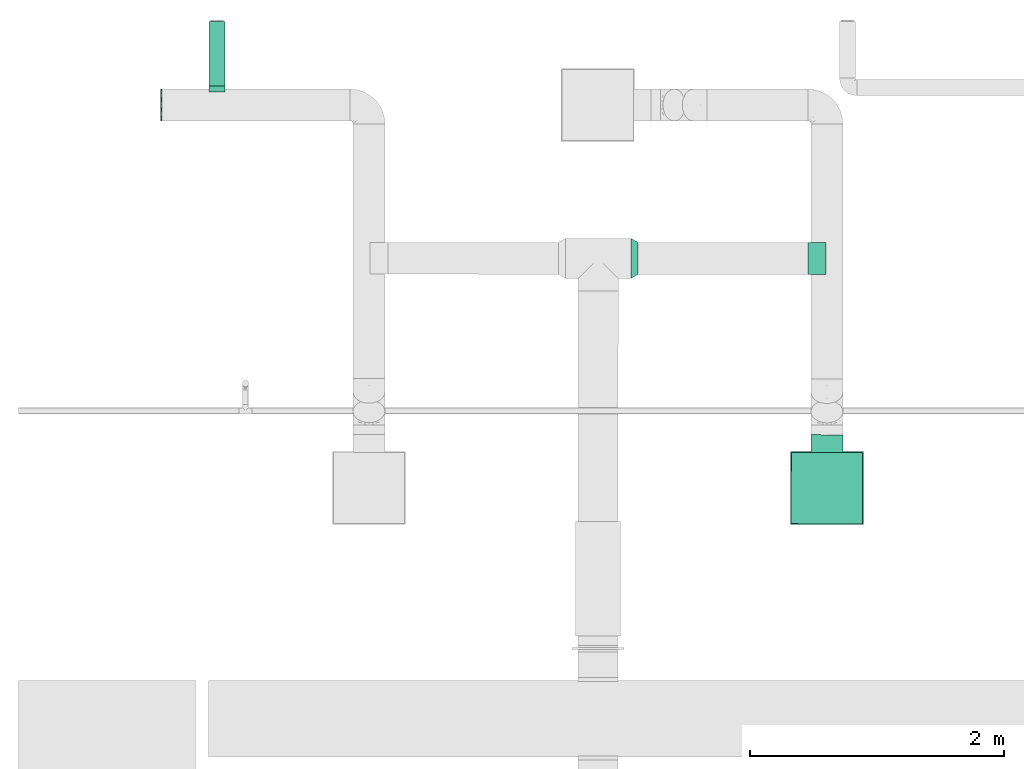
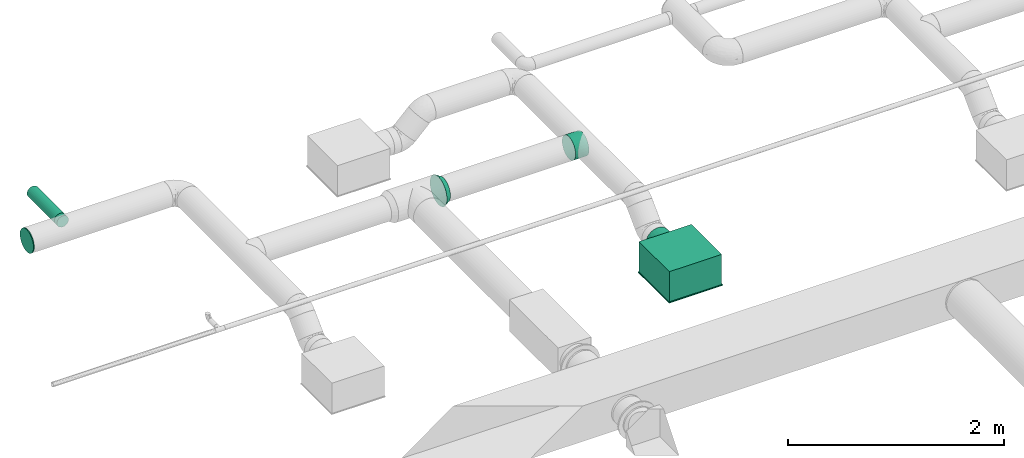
# One storey, part 36 of 63: 4 flow fittings, 1 flow segment, 1 flow terminal.
"""IFC2X3 building model written with IfcOpenShell, lengths in millimetres."""

from ifc_helpers import new_model, entity, si_unit, converted_unit, derived_unit, direction, frame, origin_with_axes, origin_2d_with_axis, place, context, subcontext, project, spatial, hollow_circle, extrude, open_shell, surface_model, source, transform, mapped, type_object, element, save


model = new_model("IFC2X3")

# Units and contexts
model_context = context("Model", 3, precision=0.01, world=frame((0.0, 4.29681676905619e-09, 0.0)), true_north=direction((4.01073788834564e-13, 1.0)))
plan_context = context("Plan", 3, precision=0.01, world=frame((0.0, 4.29681676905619e-09, 0.0)), true_north=direction((4.01073788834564e-13, 1.0)))
body_context = subcontext(model_context, "Body", "Model", "MODEL_VIEW")
ifc_project = project(units=[converted_unit("PLANEANGLEUNIT", "DEGREE", entity("IfcPositiveLengthMeasure", 0.0174532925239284), si_unit("PLANEANGLEUNIT", "RADIAN"), dimensions=[0, 0, 0, 0, 0, 0, 0]), si_unit("AREAUNIT", "SQUARE_METRE"), si_unit("LENGTHUNIT", "METRE", prefix="MILLI"), si_unit("MASSUNIT", "GRAM", prefix="KILO"), si_unit("POWERUNIT", "WATT"), si_unit("PRESSUREUNIT", "PASCAL"), si_unit("FORCEUNIT", "NEWTON", prefix="KILO"), si_unit("ELECTRICVOLTAGEUNIT", "VOLT"), si_unit("ELECTRICCURRENTUNIT", "AMPERE"), si_unit("THERMODYNAMICTEMPERATUREUNIT", "DEGREE_CELSIUS"), si_unit("TIMEUNIT", "SECOND"), si_unit("VOLUMEUNIT", "CUBIC_METRE"), derived_unit("LINEARVELOCITYUNIT", [(si_unit("LENGTHUNIT", "METRE"), 1), (si_unit("TIMEUNIT", "SECOND"), -1)]), derived_unit("VOLUMETRICFLOWRATEUNIT", [(si_unit("VOLUMEUNIT", "CUBIC_METRE"), 1), (si_unit("TIMEUNIT", "SECOND"), -1)]), derived_unit("THERMALTRANSMITTANCEUNIT", [(si_unit("POWERUNIT", "WATT"), 1), (si_unit("THERMODYNAMICTEMPERATUREUNIT", "KELVIN"), -1), (si_unit("AREAUNIT", "SQUARE_METRE"), -1)]), derived_unit("SOUNDPRESSUREUNIT", [(si_unit("PRESSUREUNIT", "PASCAL"), 1)])], contexts=[model_context, plan_context])

# Site, building, storey
site_placement = place(None, frame((0.0, -4.29681676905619e-09, 0.0), z_axis=(0.0, 0.0, 1.0), x_axis=(1.0, 0.0, 0.0)))
site = spatial("IfcSite", under=ifc_project, at=site_placement, CompositionType="ELEMENT")
building_placement = place(site_placement, frame((0.0, 4.29681676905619e-09, 0.0), z_axis=(0.0, 0.0, 1.0), x_axis=(1.0, 0.0, 0.0)))
building = spatial("IfcBuilding", under=site, at=building_placement, Name="mc-building", CompositionType="ELEMENT")
storey_placement = place(building_placement, frame((0.0, 0.0, 210900.0), z_axis=(0.0, 0.0, 1.0), x_axis=(1.0, 0.0, 0.0)))
storey = spatial("IfcBuildingStorey", under=building, at=storey_placement, Name="Nivå F", CompositionType="ELEMENT", Elevation=210900.0)

# Flow fittings
duct_fitting_type_1 = type_object("IfcDuctFittingType", Name="magicirc_reduction_001", PredefinedType="TRANSITION")
shared_shape_1 = source(origin_with_axes(), body_context, "Body", "SurfaceModel", [
    surface_model("IfcShellBasedSurfaceModel", [(0.0, 78.75, 136.39901), (0.0, 157.5, 0.0), (0.0, 40.764, 152.13332), (0.0, -78.75, 136.39901), (0.0, -152.13332, -40.764), (0.0, -111.36932, 111.36932), (0.0, -136.39901, 78.75), (0.0, -152.13332, 40.764), (0.0, -157.5, 0.0), (0.0, 152.13332, -40.764), (0.0, 136.39901, -78.75), (0.0, 0.0, -157.5), (0.0, 111.36932, -111.36932), (0.0, 78.75, -136.39901), (0.0, 40.764, -152.13332), (0.0, -136.39901, -78.75), (0.0, -78.75, -136.39901), (0.0, -111.36932, -111.36932), (0.0, -40.764, -152.13332), (0.0, 0.0, 157.5), (56.29165, 38.62713, 118.88206), (56.29165, -38.62713, 118.88206), (56.29165, -73.47315, 101.12712), (56.29165, -101.12712, 73.47315), (56.29165, -118.88206, 38.62713), (56.29165, -125.0, 0.0), (56.29165, 0.0, 125.0), (56.29165, 118.88206, -38.62713), (56.29165, 73.47315, 101.12712), (56.29165, 101.12712, 73.47315), (56.29165, 118.88206, 38.62713), (56.29165, -118.88206, -38.62713), (56.29165, -101.12712, -73.47315), (56.29165, 0.0, -125.0), (56.29165, -73.47315, -101.12712), (56.29165, -38.62713, -118.88206), (56.29165, 125.0, 0.0), (56.29165, 73.47315, -101.12712), (56.29165, 101.12712, -73.47315), (56.29165, 38.62713, -118.88206), (0.0, 136.39901, 78.75), (0.0, 111.36932, 111.36932), (0.0, -40.764, 152.13332), (0.0, 152.13332, 40.764)], [open_shell([[[0, 1, 2]], [[3, 4, 5]], [[6, 5, 4]], [[6, 4, 7]], [[7, 4, 8]], [[1, 9, 10]], [[11, 12, 13]], [[14, 11, 13]], [[15, 16, 17]], [[16, 11, 18]], [[1, 4, 19]], [[20, 21, 22]], [[23, 24, 25]], [[23, 25, 22]], [[20, 22, 25]], [[26, 21, 20]], [[20, 27, 28]], [[28, 27, 29]], [[27, 30, 29]], [[25, 27, 20]], [[31, 32, 33]], [[34, 35, 33]], [[34, 33, 32]], [[33, 27, 25]], [[30, 27, 36]], [[33, 37, 38]], [[38, 27, 33]], [[37, 33, 39]], [[25, 31, 33]], [[1, 19, 2]], [[40, 1, 41]], [[41, 1, 0]], [[5, 19, 4]], [[19, 5, 3]], [[3, 42, 19]], [[5, 4, 6]], [[8, 7, 4]], [[1, 40, 43]], [[1, 10, 14]], [[13, 14, 10]], [[13, 10, 12]], [[1, 14, 4]], [[14, 17, 15]], [[15, 4, 14]], [[14, 16, 17]], [[18, 16, 14]], [[11, 18, 14]], [[35, 34, 16]], [[33, 35, 18]], [[18, 11, 33]], [[16, 18, 35]], [[34, 17, 16]], [[31, 25, 4]], [[32, 31, 15]], [[15, 17, 32]], [[4, 15, 31]], [[25, 8, 4]], [[32, 17, 34]], [[27, 38, 10]], [[36, 27, 9]], [[9, 1, 36]], [[10, 9, 27]], [[38, 12, 10]], [[39, 33, 14]], [[37, 39, 13]], [[13, 12, 37]], [[14, 13, 39]], [[33, 11, 14]], [[37, 12, 38]], [[20, 28, 0]], [[26, 20, 2]], [[2, 19, 26]], [[0, 2, 20]], [[28, 41, 0]], [[30, 36, 43]], [[29, 30, 40]], [[40, 41, 29]], [[43, 40, 30]], [[36, 1, 43]], [[29, 41, 28]], [[24, 23, 6]], [[25, 24, 7]], [[7, 8, 25]], [[6, 7, 24]], [[23, 5, 6]], [[21, 26, 42]], [[22, 21, 3]], [[3, 5, 22]], [[42, 3, 21]], [[26, 19, 42]], [[22, 5, 23]], [[42, 19, 2]], [[0, 42, 2]], [[0, 41, 1]], [[0, 1, 42]], [[42, 4, 3]], [[11, 1, 9]], [[10, 11, 9]], [[12, 11, 10]], [[11, 15, 4]], [[11, 16, 15]], [[4, 1, 11]], [[1, 4, 42]], [[21, 22, 25]], [[21, 25, 26]], [[20, 26, 28]], [[26, 29, 28]], [[30, 29, 27]], [[27, 29, 26]], [[26, 25, 35]], [[31, 32, 34]], [[35, 27, 26]], [[35, 31, 34]], [[39, 35, 33]], [[35, 38, 27]], [[35, 37, 38]], [[39, 37, 35]], [[25, 31, 35]], [[25, 7, 8]], [[7, 24, 6]], [[19, 42, 26]], [[3, 21, 42]], [[26, 2, 19]], [[2, 20, 0]], [[1, 43, 36]], [[40, 30, 43]], [[36, 9, 1]], [[9, 27, 10]], [[11, 14, 33]], [[13, 39, 14]], [[33, 18, 11]], [[18, 35, 16]], [[8, 4, 25]], [[15, 31, 4]], [[26, 21, 22]], [[26, 23, 20]], [[23, 26, 22]], [[23, 27, 29]], [[28, 20, 29]], [[29, 36, 30]], [[29, 20, 23]], [[29, 27, 36]], [[23, 31, 27]], [[32, 34, 35]], [[27, 31, 32]], [[33, 32, 35]], [[38, 27, 37]], [[33, 37, 27]], [[27, 32, 33]], [[31, 23, 25]], [[41, 19, 2]], [[41, 2, 0]], [[19, 40, 4]], [[40, 19, 41]], [[7, 19, 4]], [[42, 5, 3]], [[42, 19, 5]], [[5, 7, 6]], [[19, 7, 5]], [[43, 10, 40]], [[9, 10, 43]], [[40, 10, 4]], [[4, 10, 13]], [[18, 13, 14]], [[4, 17, 15]], [[17, 4, 16]], [[13, 18, 16]], [[16, 4, 13]], [[43, 1, 9]], [[13, 37, 39]], [[38, 37, 12]], [[33, 14, 39]], [[27, 10, 9]], [[37, 13, 12]], [[11, 33, 18]], [[18, 33, 35]], [[34, 16, 35]], [[15, 32, 31]], [[17, 34, 32]], [[4, 31, 25]], [[17, 32, 15]], [[31, 4, 15]], [[3, 22, 21]], [[23, 22, 5]], [[26, 42, 21]], [[24, 6, 7]], [[22, 3, 5]], [[19, 26, 2]], [[2, 26, 20]], [[28, 0, 20]], [[40, 29, 30]], [[41, 28, 29]], [[43, 30, 36]], [[41, 29, 40]], [[30, 43, 40]]])]),
])
flow_fitting_1_placement = place(storey_placement, frame((525362.20494, 459788.88693, 4200.0), z_axis=(0.0, 0.0, 1.0), x_axis=(0.999999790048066, -0.000647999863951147, 0.0)))
element("IfcFlowFitting", 1, at=flow_fitting_1_placement, inside=storey, type_object=duct_fitting_type_1, Name="magicirc_reduction_001", context=body_context, shape_type="MappedRepresentation", body=[
    mapped(shared_shape_1, transform((0.0, 0.0, 0.0), scale=1.0)),
])
duct_fitting_type_2 = type_object("IfcDuctFittingType", Name="magicirc_tapoutlet_001", PredefinedType="CONNECTOR")
shared_shape_2 = source(origin_with_axes(), body_context, "Body", "SurfaceModel", [
    surface_model("IfcShellBasedSurfaceModel", [(-118.904, 0.0, -125.0), (-118.904, -32.35238, -120.74073), (-118.904, 32.35238, -120.74073), (-118.904, 120.74073, 32.35238), (-118.904, 62.5, -108.25318), (-118.904, 88.38835, -88.38835), (-118.904, 108.25318, -62.5), (-118.904, -125.0, 0.0), (-118.904, -120.74073, 32.35238), (-118.904, -88.38835, -88.38835), (-118.904, -62.5, -108.25318), (-118.904, -120.74073, -32.35238), (-118.904, -108.25318, -62.5), (-118.904, 120.74073, -32.35238), (-118.904, 108.25318, 62.5), (-118.904, 62.5, 108.25318), (-118.904, 32.35238, 120.74073), (-118.904, 88.38835, 88.38835), (-118.904, 0.0, 125.0), (-118.904, -108.25318, 62.5), (-118.904, -88.38835, 88.38835), (-118.904, -32.35238, 120.74073), (-118.904, -62.5, 108.25318), (-118.904, 125.0, 0.0), (0.0, 0.0, 125.0), (0.0, 32.35238, 120.74073), (0.0, 62.5, 108.25318), (0.0, 88.38835, 88.38835), (0.0, 108.25318, 62.5), (0.0, 120.74073, 32.35238), (0.0, 125.0, 0.0), (0.0, 120.74073, -32.35238), (0.0, 108.25318, -62.5), (0.0, 88.38835, -88.38835), (0.0, 62.5, -108.25318), (0.0, 32.35238, -120.74073), (0.0, 0.0, -125.0), (0.0, -32.35238, -120.74073), (0.0, -62.5, -108.25318), (0.0, -88.38835, -88.38835), (0.0, -108.25318, -62.5), (0.0, -120.74073, -32.35238), (0.0, -125.0, 0.0), (0.0, -120.74073, 32.35238), (0.0, -108.25318, 62.5), (0.0, -88.38835, 88.38835), (0.0, -62.5, 108.25318), (0.0, -32.35238, 120.74073), (25.0, 62.5, -108.25318), (25.0, 125.0, 0.0), (25.0, 32.35238, -120.74073), (25.0, -88.38835, -88.38835), (25.0, 0.0, -125.0), (25.0, -120.74073, 32.35238), (25.0, -62.5, -108.25318), (25.0, -32.35238, -120.74073), (25.0, -108.25318, -62.5), (25.0, -120.74073, -32.35238), (25.0, -125.0, 0.0), (25.0, 108.25318, -62.5), (25.0, 120.74073, -32.35238), (25.0, 120.74073, 32.35238), (25.0, 108.25318, 62.5), (25.0, 88.38835, 88.38835), (25.0, 32.35238, 120.74073), (25.0, 62.5, 108.25318), (25.0, -62.5, 108.25318), (25.0, -88.38835, 88.38835), (25.0, -108.25318, 62.5), (25.0, 0.0, 125.0), (25.0, -32.35238, 120.74073), (25.0, 88.38835, -88.38835)], [open_shell([[[0, 1, 2]], [[2, 3, 4]], [[5, 3, 6]], [[4, 3, 5]], [[2, 7, 8]], [[9, 7, 10]], [[2, 1, 10]], [[11, 7, 12]], [[9, 12, 7]], [[10, 7, 2]], [[13, 6, 3]], [[14, 3, 2]], [[15, 14, 2]], [[15, 2, 16]], [[17, 14, 15]], [[18, 16, 2]], [[8, 19, 2]], [[19, 20, 2]], [[21, 18, 22]], [[20, 22, 18]], [[2, 20, 18]], [[23, 13, 3]], [[16, 24, 25]], [[15, 25, 26]], [[18, 24, 16]], [[16, 25, 15]], [[26, 17, 15]], [[26, 27, 17]], [[3, 28, 29]], [[23, 29, 30]], [[27, 14, 17]], [[27, 28, 14]], [[14, 28, 3]], [[29, 23, 3]], [[31, 32, 6]], [[30, 31, 23]], [[23, 31, 13]], [[5, 6, 32]], [[31, 6, 13]], [[32, 33, 5]], [[2, 34, 35]], [[0, 35, 36]], [[33, 4, 5]], [[33, 34, 4]], [[4, 34, 2]], [[35, 0, 2]], [[1, 36, 37]], [[10, 37, 38]], [[0, 36, 1]], [[1, 37, 10]], [[38, 9, 10]], [[38, 39, 9]], [[11, 40, 41]], [[7, 41, 42]], [[39, 12, 9]], [[39, 40, 12]], [[12, 40, 11]], [[41, 7, 11]], [[8, 42, 43]], [[19, 43, 44]], [[7, 42, 8]], [[8, 43, 19]], [[44, 20, 19]], [[44, 45, 20]], [[21, 46, 47]], [[18, 47, 24]], [[45, 22, 20]], [[45, 46, 22]], [[22, 46, 21]], [[47, 18, 21]], [[2, 17, 14]], [[15, 17, 2]], [[2, 20, 22]], [[18, 2, 22]], [[48, 49, 50]], [[51, 52, 53]], [[52, 51, 54]], [[54, 55, 52]], [[56, 53, 57]], [[53, 58, 57]], [[49, 59, 60]], [[61, 62, 52]], [[52, 62, 63]], [[64, 52, 65]], [[52, 63, 65]], [[66, 52, 64]], [[67, 68, 52]], [[64, 69, 70]], [[24, 69, 64]], [[25, 64, 65]], [[24, 64, 25]], [[26, 63, 27]], [[26, 25, 65]], [[63, 26, 65]], [[28, 62, 61]], [[29, 61, 49]], [[27, 62, 28]], [[29, 28, 61]], [[30, 29, 49]], [[62, 27, 63]], [[30, 49, 60]], [[31, 60, 59]], [[30, 60, 31]], [[32, 71, 33]], [[32, 31, 59]], [[71, 32, 59]], [[50, 52, 36]], [[48, 50, 35]], [[33, 48, 34]], [[36, 35, 50]], [[48, 35, 34]], [[48, 33, 71]], [[36, 52, 55]], [[37, 55, 54]], [[36, 55, 37]], [[38, 51, 39]], [[38, 37, 54]], [[51, 38, 54]], [[40, 56, 57]], [[41, 57, 58]], [[39, 56, 40]], [[41, 40, 57]], [[42, 41, 58]], [[56, 39, 51]], [[42, 58, 53]], [[43, 53, 68]], [[42, 53, 43]], [[44, 67, 45]], [[44, 43, 68]], [[67, 44, 68]], [[46, 66, 70]], [[47, 70, 69]], [[45, 66, 46]], [[47, 46, 70]], [[24, 47, 69]], [[66, 45, 67]], [[56, 51, 53]], [[58, 57, 53]], [[67, 52, 66]], [[64, 70, 66]], [[49, 61, 52]], [[50, 49, 52]], [[71, 59, 49]], [[71, 49, 48]], [[52, 54, 55]], [[52, 62, 65]], [[65, 62, 63]], [[52, 64, 66]], [[52, 68, 53]], [[62, 52, 61]], [[65, 64, 52]], [[52, 67, 68]], [[52, 66, 67]], [[69, 70, 64]], [[52, 49, 61]]])]),
])
flow_fitting_2_placement = place(storey_placement, frame((526778.29771, 459787.96966, 4200.0), z_axis=(0.0, 0.0, -1.0), x_axis=(-0.999999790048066, 0.000647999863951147, 0.0)))
element("IfcFlowFitting", 2, at=flow_fitting_2_placement, inside=storey, type_object=duct_fitting_type_2, Name="magicirc_tapoutlet_001", context=body_context, shape_type="MappedRepresentation", body=[
    mapped(shared_shape_2, transform((0.0, 0.0, 0.0), scale=1.0)),
])
duct_fitting_type_3 = type_object("IfcDuctFittingType", Name="magicirc_plug_001", PredefinedType="OBSTRUCTION")
shared_shape_3 = source(origin_with_axes(), body_context, "Body", "SurfaceModel", [
    surface_model("IfcShellBasedSurfaceModel", [(0.0, 32.35238, -120.74073), (0.0, 0.0, -125.0), (0.0, 108.25318, -62.5), (0.0, 62.5, -108.25318), (0.0, 88.38835, -88.38835), (0.0, 120.74073, -32.35238), (0.0, -32.35238, -120.74073), (0.0, -62.5, -108.25318), (0.0, -88.38835, -88.38835), (0.0, -125.0, 0.0), (0.0, -108.25318, -62.5), (0.0, -120.74073, -32.35238), (0.0, 125.0, 0.0), (0.0, 108.25318, 62.5), (0.0, 120.74073, 32.35238), (0.0, 88.38835, 88.38835), (0.0, 32.35238, 120.74073), (0.0, 62.5, 108.25318), (0.0, -32.35238, 120.74073), (0.0, -88.38835, 88.38835), (0.0, -62.5, 108.25318), (0.0, -108.25318, 62.5), (0.0, -120.74073, 32.35238), (0.0, 0.0, 125.0), (10.0, 88.38835, -88.38835), (10.0, 0.0, -125.0), (10.0, 32.35238, -120.74073), (10.0, 62.5, -108.25318), (10.0, 108.25318, -62.5), (10.0, 120.74073, -32.35238), (10.0, -32.35238, -120.74073), (10.0, -88.38835, -88.38835), (10.0, -62.5, -108.25318), (10.0, -125.0, 0.0), (10.0, -120.74073, -32.35238), (10.0, -108.25318, -62.5), (10.0, -108.25318, 62.5), (10.0, 88.38835, 88.38835), (10.0, 125.0, 0.0), (10.0, 120.74073, 32.35238), (10.0, 108.25318, 62.5), (10.0, 62.5, 108.25318), (10.0, 32.35238, 120.74073), (10.0, -32.35238, 120.74073), (10.0, -62.5, 108.25318), (10.0, -88.38835, 88.38835), (10.0, -120.74073, 32.35238), (10.0, 0.0, 125.0)], [open_shell([[[0, 1, 2]], [[3, 0, 4]], [[1, 5, 2]], [[4, 0, 2]], [[6, 5, 1]], [[7, 8, 6]], [[9, 6, 8]], [[10, 11, 8]], [[9, 8, 11]], [[9, 5, 6]], [[9, 12, 5]], [[13, 14, 12]], [[15, 13, 12]], [[16, 17, 15]], [[12, 16, 15]], [[9, 18, 16]], [[19, 20, 21]], [[21, 9, 22]], [[9, 21, 20]], [[9, 20, 18]], [[16, 18, 23]], [[12, 9, 16]], [[24, 25, 26]], [[24, 26, 27]], [[28, 29, 25]], [[28, 25, 24]], [[25, 29, 30]], [[30, 31, 32]], [[31, 30, 33]], [[31, 34, 35]], [[34, 31, 33]], [[30, 29, 33]], [[29, 36, 33]], [[37, 38, 39]], [[37, 39, 40]], [[37, 41, 42]], [[38, 37, 43]], [[43, 37, 42]], [[36, 44, 45]], [[46, 33, 36]], [[38, 44, 36]], [[38, 43, 44]], [[47, 43, 42]], [[36, 29, 38]], [[46, 9, 33]], [[36, 22, 46]], [[19, 45, 44]], [[36, 45, 21]], [[20, 44, 43]], [[36, 21, 22]], [[22, 9, 46]], [[18, 47, 23]], [[18, 20, 43]], [[19, 44, 20]], [[19, 21, 45]], [[47, 18, 43]], [[41, 16, 42]], [[37, 17, 41]], [[13, 40, 39]], [[37, 40, 15]], [[14, 39, 38]], [[41, 17, 16]], [[16, 23, 42]], [[14, 13, 39]], [[15, 40, 13]], [[15, 17, 37]], [[12, 14, 38]], [[42, 23, 47]], [[29, 12, 38]], [[28, 5, 29]], [[4, 24, 27]], [[28, 24, 2]], [[3, 27, 26]], [[28, 2, 5]], [[5, 12, 29]], [[0, 25, 1]], [[0, 3, 26]], [[4, 27, 3]], [[4, 2, 24]], [[25, 0, 26]], [[6, 30, 32]], [[7, 32, 31]], [[11, 35, 34]], [[9, 34, 33]], [[31, 35, 8]], [[32, 7, 6]], [[6, 1, 30]], [[8, 35, 10]], [[11, 10, 35]], [[9, 11, 34]], [[8, 7, 31]], [[30, 1, 25]]])]),
])
flow_fitting_3_placement = place(storey_placement, frame((521672.64941, 460995.76875, 4200.0), z_axis=(0.0, 0.0, 1.0), x_axis=(-1.0, 0.0, 0.0)))
element("IfcFlowFitting", 3, at=flow_fitting_3_placement, inside=storey, type_object=duct_fitting_type_3, Name="magicirc_plug_001", context=body_context, shape_type="MappedRepresentation", body=[
    mapped(shared_shape_3, transform((0.0, 0.0, 0.0), scale=1.0)),
])
shared_shape_4 = source(origin_with_axes(), body_context, "Body", "SurfaceModel", [
    surface_model("IfcShellBasedSurfaceModel", [(25.0, 0.0, -62.5), (25.0, -31.25, -54.12659), (25.0, -16.17619, -60.37037), (-22.84282, 0.0, -62.5), (-22.84282, -16.17619, -60.37037), (-22.84282, 16.17619, -60.37037), (-22.84282, 60.37037, 16.17619), (-22.84282, 31.25, -54.12659), (-22.84282, 44.19417, -44.19417), (-22.84282, 54.12659, -31.25), (-22.84282, -62.5, 0.0), (-22.84282, -60.37037, 16.17619), (-22.84282, -44.19417, -44.19417), (-22.84282, -31.25, -54.12659), (-22.84282, -60.37037, -16.17619), (-22.84282, -54.12659, -31.25), (-22.84282, 60.37037, -16.17619), (-22.84282, 54.12659, 31.25), (-22.84282, 44.19417, 44.19417), (-22.84282, 16.17619, 60.37037), (-22.84282, 31.25, 54.12659), (-22.84282, -16.17619, 60.37037), (-22.84282, -54.12659, 31.25), (-22.84282, -44.19417, 44.19417), (-22.84282, -31.25, 54.12659), (-22.84282, 0.0, 62.5), (-22.84282, 62.5, 0.0), (0.0, 0.0, 62.5), (0.0, 16.17619, 60.37037), (0.0, 31.25, 54.12659), (0.0, 44.19417, 44.19417), (0.0, 54.12659, 31.25), (0.0, 60.37037, 16.17619), (0.0, 62.5, 0.0), (0.0, 60.37037, -16.17619), (0.0, 54.12659, -31.25), (0.0, 44.19417, -44.19417), (0.0, 31.25, -54.12659), (0.0, 16.17619, -60.37037), (0.0, 0.0, -62.5), (0.0, -16.17619, -60.37037), (0.0, -31.25, -54.12659), (0.0, -44.19417, -44.19417), (0.0, -54.12659, -31.25), (0.0, -60.37037, -16.17619), (0.0, -62.5, 0.0), (0.0, -60.37037, 16.17619), (0.0, -54.12659, 31.25), (0.0, -44.19417, 44.19417), (0.0, -31.25, 54.12659), (0.0, -16.17619, 60.37037), (25.0, 44.19417, -44.19417), (25.0, 62.5, 0.0), (25.0, 31.25, -54.12659), (25.0, 54.12659, -31.25), (25.0, -62.5, 0.0), (25.0, -60.37037, -16.17619), (25.0, -60.37037, 16.17619), (25.0, 16.17619, -60.37037), (25.0, -44.19417, -44.19417), (25.0, -54.12659, -31.25), (25.0, 60.37037, -16.17619), (25.0, 60.37037, 16.17619), (25.0, 54.12659, 31.25), (25.0, 44.19417, 44.19417), (25.0, 31.25, 54.12659), (25.0, 0.0, 62.5), (25.0, 16.17619, 60.37037), (25.0, -44.19417, 44.19417), (25.0, -54.12659, 31.25), (25.0, -16.17619, 60.37037), (25.0, -31.25, 54.12659)], [open_shell([[[0, 1, 2]], [[3, 4, 5]], [[5, 6, 7]], [[8, 6, 9]], [[7, 6, 8]], [[5, 10, 11]], [[12, 10, 13]], [[4, 13, 10]], [[14, 10, 15]], [[12, 15, 10]], [[10, 5, 4]], [[16, 9, 6]], [[6, 5, 17]], [[18, 17, 5]], [[5, 19, 20]], [[5, 20, 18]], [[5, 21, 19]], [[22, 23, 5]], [[5, 11, 22]], [[23, 24, 5]], [[5, 24, 21]], [[21, 25, 19]], [[26, 16, 6]], [[25, 27, 28]], [[19, 28, 29]], [[25, 28, 19]], [[20, 30, 18]], [[20, 19, 29]], [[30, 20, 29]], [[17, 31, 32]], [[6, 32, 33]], [[18, 31, 17]], [[6, 17, 32]], [[26, 6, 33]], [[31, 18, 30]], [[26, 33, 34]], [[16, 34, 35]], [[26, 34, 16]], [[9, 36, 8]], [[9, 16, 35]], [[36, 9, 35]], [[7, 37, 38]], [[5, 38, 39]], [[8, 37, 7]], [[5, 7, 38]], [[3, 5, 39]], [[37, 8, 36]], [[3, 39, 40]], [[4, 40, 41]], [[3, 40, 4]], [[13, 42, 12]], [[13, 4, 41]], [[42, 13, 41]], [[15, 43, 44]], [[14, 44, 45]], [[12, 43, 15]], [[14, 15, 44]], [[10, 14, 45]], [[43, 12, 42]], [[10, 45, 46]], [[11, 46, 47]], [[10, 46, 11]], [[22, 48, 23]], [[22, 11, 47]], [[48, 22, 47]], [[24, 49, 50]], [[21, 50, 27]], [[23, 49, 24]], [[21, 24, 50]], [[25, 21, 27]], [[49, 23, 48]], [[5, 17, 6]], [[5, 18, 17]], [[20, 5, 19]], [[20, 18, 5]], [[19, 5, 21]], [[22, 5, 11]], [[51, 52, 53]], [[51, 54, 52]], [[55, 56, 57]], [[58, 52, 0]], [[53, 52, 58]], [[59, 0, 57]], [[0, 59, 1]], [[1, 2, 0]], [[60, 57, 56]], [[57, 60, 59]], [[56, 57, 55]], [[52, 54, 61]], [[62, 63, 0]], [[0, 63, 64]], [[0, 65, 66]], [[64, 65, 0]], [[65, 67, 66]], [[0, 68, 69]], [[69, 57, 0]], [[70, 71, 0]], [[71, 68, 0]], [[70, 0, 66]], [[52, 62, 0]], [[27, 66, 67]], [[28, 67, 65]], [[27, 67, 28]], [[29, 64, 30]], [[29, 28, 65]], [[64, 29, 65]], [[31, 63, 62]], [[32, 62, 52]], [[30, 63, 31]], [[32, 31, 62]], [[33, 32, 52]], [[63, 30, 64]], [[33, 52, 61]], [[34, 61, 54]], [[33, 61, 34]], [[35, 51, 36]], [[35, 34, 54]], [[51, 35, 54]], [[37, 53, 58]], [[38, 58, 0]], [[36, 53, 37]], [[38, 37, 58]], [[39, 38, 0]], [[53, 36, 51]], [[39, 0, 2]], [[40, 2, 1]], [[39, 2, 40]], [[41, 59, 42]], [[41, 40, 1]], [[59, 41, 1]], [[43, 60, 56]], [[44, 56, 55]], [[42, 60, 43]], [[44, 43, 56]], [[45, 44, 55]], [[60, 42, 59]], [[45, 55, 57]], [[46, 57, 69]], [[45, 57, 46]], [[47, 68, 48]], [[47, 46, 69]], [[68, 47, 69]], [[49, 71, 70]], [[50, 70, 66]], [[48, 71, 49]], [[50, 49, 70]], [[27, 50, 66]], [[71, 48, 68]], [[63, 0, 62]], [[63, 64, 0]], [[0, 64, 65]], [[66, 65, 67]], [[57, 0, 69]], [[0, 71, 68]], [[66, 70, 0]], [[62, 0, 52]]])]),
])
flow_fitting_4_placement = place(storey_placement, frame((522105.77614, 461120.76875, 4200.0), z_axis=(0.0, 0.0, -1.0), x_axis=(0.0, 1.0, 0.0)))
element("IfcFlowFitting", 4, at=flow_fitting_4_placement, inside=storey, type_object=duct_fitting_type_2, Name="magicirc_tapoutlet_001", context=body_context, shape_type="MappedRepresentation", body=[
    mapped(shared_shape_4, transform((0.0, 0.0, 0.0), scale=1.0)),
])

# Flow segment
duct_segment_type = type_object("IfcDuctSegmentType", Name="KK002T - Spiro kanaler, Forsinket stål, korte bend", PredefinedType="RIGIDSEGMENT")
shared_shape_5 = source(origin_with_axes(), body_context, "Body", "SweptSolid", [
    extrude(hollow_circle(Radius=62.5, WallThickness=2.0, at=origin_2d_with_axis()), frame((0.0, 0.0, 0.0), z_axis=(1.0, 0.0, 0.0), x_axis=(0.0, 1.0, 0.0)), (0.0, 0.0, 1.0), 505.2),
])
flow_segment_placement = place(storey_placement, frame((522105.77614, 461145.76875, 4200.0), z_axis=(0.0, 0.0, 1.0), x_axis=(0.0, 1.0, 0.0)))
element("IfcFlowSegment", 5, at=flow_segment_placement, inside=storey, type_object=duct_segment_type, Name="KK002T - Spiro kanaler, Forsinket stål, korte bend", context=body_context, shape_type="MappedRepresentation", body=[
    mapped(shared_shape_5, transform((0.0, 0.0, 0.0), scale=1.0)),
])

# Flow terminal
air_terminal_type = type_object("IfcAirTerminalType", Name="NS19-H-S-2-250 - 4-way", PredefinedType="NOTDEFINED")
shared_shape_6 = source(origin_with_axes(), body_context, "Body", "SurfaceModel", [
    surface_model("IfcShellBasedSurfaceModel", [(-287.5, 287.5, 0.0), (-287.5, -287.5, 0.0), (287.5, -287.5, 0.0), (287.5, 287.5, 0.0), (287.5, 287.5, -10.0), (287.5, -287.5, -10.0), (-287.5, -287.5, -10.0), (-287.5, 287.5, -10.0), (-280.0, 280.0, 340.0), (-280.0, -280.0, 340.0), (280.0, -280.0, 340.0), (280.0, 280.0, 340.0), (280.0, 280.0, 0.0), (280.0, -280.0, 0.0), (-280.0, -280.0, 0.0), (-280.0, 280.0, 0.0), (-280.0, 62.5, 81.74683), (-280.0, 88.38835, 101.61165), (-280.0, 62.4, 81.92003), (-280.0, 32.30062, 69.45246), (-280.0, 0.0, 65.2), (-280.0, 32.35238, 69.25927), (-280.0, 0.0, 65.0), (-280.0, 88.24693, 101.75307), (-280.0, 120.74073, 157.64763), (-280.0, 124.8, 189.99999), (-280.0, 120.54755, 157.69939), (-280.0, 125.0, 189.99999), (-280.0, 108.25318, 127.5), (-280.0, 108.07997, 127.6), (-280.0, -32.30062, 69.45246), (-280.0, -32.35238, 69.25927), (-280.0, -62.4, 81.92003), (-280.0, -88.38835, 101.61165), (-280.0, -62.5, 81.74683), (-280.0, -88.24693, 101.75307), (-280.0, -108.07997, 127.6), (-280.0, -108.25318, 127.5), (-280.0, -120.54755, 157.69939), (-280.0, -120.74073, 157.64763), (-280.0, -124.8, 189.99999), (-280.0, -125.0, 189.99999), (-280.0, 120.74073, 222.35238), (-280.0, 120.54755, 222.30062), (-280.0, 108.07997, 252.4), (-280.0, 108.25318, 252.49999), (-280.0, 88.24693, 278.24693), (-280.0, 88.38835, 278.38835), (-280.0, 62.5, 298.25318), (-280.0, 62.4, 298.07997), (-280.0, 32.30062, 310.54754), (-280.0, 32.35238, 310.74073), (-280.0, 0.0, 314.80001), (-280.0, 0.0, 315.0), (-280.0, -108.25318, 252.49999), (-280.0, -108.07997, 252.4), (-280.0, -88.38835, 278.38835), (-280.0, -88.24693, 278.24693), (-280.0, -120.74073, 222.35238), (-280.0, -120.54755, 222.30062), (-280.0, -32.30062, 310.54754), (-280.0, -32.35238, 310.74073), (-280.0, -62.4, 298.07997), (-280.0, -62.5, 298.25318), (-420.00002, 62.5, 298.25318), (-420.00002, 88.38835, 278.38835), (-420.00002, 62.4, 298.07997), (-420.00002, 32.30062, 310.54754), (-420.00002, 0.0, 314.80001), (-420.00002, 32.35238, 310.74073), (-420.00002, 0.0, 315.0), (-420.00002, 88.24693, 278.24693), (-420.00002, 120.74073, 222.35238), (-420.00002, 124.8, 189.99999), (-420.00002, 120.54755, 222.30062), (-420.00002, 125.0, 189.99999), (-420.00002, 108.25318, 252.49999), (-420.00002, 108.07997, 252.4), (-420.00002, -32.30062, 310.54754), (-420.00002, -32.35238, 310.74073), (-420.00002, -62.4, 298.07997), (-420.00002, -88.38835, 278.38835), (-420.00002, -62.5, 298.25318), (-420.00002, -88.24693, 278.24693), (-420.00002, -108.07997, 252.4), (-420.00002, -108.25318, 252.49999), (-420.00002, -120.54755, 222.30062), (-420.00002, -120.74073, 222.35238), (-420.00002, -124.8, 189.99999), (-420.00002, -125.0, 189.99999), (-420.00002, 120.74073, 157.64763), (-420.00002, 120.54755, 157.69939), (-420.00002, 108.07997, 127.6), (-420.00002, 108.25318, 127.5), (-420.00002, 88.24693, 101.75307), (-420.00002, 88.38835, 101.61165), (-420.00002, 62.5, 81.74683), (-420.00002, 62.4, 81.92003), (-420.00002, 32.30062, 69.45246), (-420.00002, 32.35238, 69.25927), (-420.00002, 0.0, 65.2), (-420.00002, 0.0, 65.0), (-420.00002, -108.25318, 127.5), (-420.00002, -108.07997, 127.6), (-420.00002, -88.38835, 101.61165), (-420.00002, -88.24693, 101.75307), (-420.00002, -120.74073, 157.64763), (-420.00002, -120.54755, 157.69939), (-420.00002, -32.30062, 69.45246), (-420.00002, -32.35238, 69.25927), (-420.00002, -62.4, 81.92003), (-420.00002, -62.5, 81.74683)], [open_shell([[[0, 1, 2]], [[2, 3, 0]], [[4, 5, 6]], [[6, 7, 4]], [[2, 1, 6]], [[6, 5, 2]], [[3, 2, 5]], [[5, 4, 3]], [[0, 3, 4]], [[4, 7, 0]], [[1, 0, 7]], [[7, 6, 1]], [[8, 9, 10]], [[10, 11, 8]], [[12, 13, 14]], [[14, 15, 12]], [[10, 9, 14]], [[14, 13, 10]], [[11, 10, 13]], [[13, 12, 11]], [[8, 11, 12]], [[12, 15, 8]], [[9, 8, 15]], [[15, 14, 9]], [[16, 17, 18]], [[16, 18, 19]], [[20, 21, 19]], [[21, 20, 22]], [[19, 21, 16]], [[18, 17, 23]], [[24, 25, 26]], [[25, 24, 27]], [[24, 26, 28]], [[23, 28, 29]], [[28, 23, 17]], [[29, 28, 26]], [[22, 30, 31]], [[31, 30, 32]], [[33, 34, 35]], [[32, 34, 31]], [[32, 35, 34]], [[22, 20, 30]], [[36, 37, 33]], [[37, 36, 38]], [[36, 33, 35]], [[39, 38, 40]], [[38, 39, 37]], [[39, 40, 41]], [[27, 42, 43]], [[43, 42, 44]], [[44, 45, 46]], [[45, 44, 42]], [[46, 45, 47]], [[47, 48, 49]], [[49, 48, 50]], [[50, 51, 52]], [[51, 50, 48]], [[52, 51, 53]], [[49, 46, 47]], [[54, 55, 56]], [[56, 55, 57]], [[55, 54, 58]], [[41, 59, 58]], [[58, 59, 55]], [[41, 40, 59]], [[60, 53, 61]], [[60, 61, 62]], [[57, 63, 56]], [[57, 62, 63]], [[63, 62, 61]], [[52, 53, 60]], [[43, 25, 27]], [[64, 65, 66]], [[64, 66, 67]], [[68, 69, 67]], [[69, 68, 70]], [[67, 69, 64]], [[66, 65, 71]], [[72, 73, 74]], [[73, 72, 75]], [[72, 74, 76]], [[71, 76, 77]], [[76, 71, 65]], [[77, 76, 74]], [[70, 78, 79]], [[79, 78, 80]], [[81, 82, 83]], [[80, 82, 79]], [[80, 83, 82]], [[70, 68, 78]], [[84, 85, 81]], [[85, 84, 86]], [[84, 81, 83]], [[87, 86, 88]], [[86, 87, 85]], [[87, 88, 89]], [[75, 90, 91]], [[91, 90, 92]], [[92, 93, 94]], [[93, 92, 90]], [[94, 93, 95]], [[95, 96, 97]], [[97, 96, 98]], [[98, 99, 100]], [[99, 98, 96]], [[100, 99, 101]], [[97, 94, 95]], [[102, 103, 104]], [[104, 103, 105]], [[103, 102, 106]], [[89, 107, 106]], [[106, 107, 103]], [[89, 88, 107]], [[108, 101, 109]], [[108, 109, 110]], [[105, 111, 104]], [[105, 110, 111]], [[111, 110, 109]], [[100, 101, 108]], [[91, 73, 75]], [[39, 106, 102]], [[104, 37, 102]], [[34, 111, 109]], [[104, 111, 33]], [[31, 109, 101]], [[106, 41, 89]], [[106, 39, 41]], [[102, 37, 39]], [[104, 33, 37]], [[34, 33, 111]], [[109, 31, 34]], [[101, 22, 31]], [[21, 99, 96]], [[95, 16, 96]], [[28, 93, 90]], [[95, 93, 17]], [[24, 90, 75]], [[99, 21, 22]], [[96, 16, 21]], [[95, 17, 16]], [[93, 28, 17]], [[24, 28, 90]], [[75, 27, 24]], [[99, 22, 101]], [[42, 75, 72]], [[45, 72, 76]], [[48, 64, 69]], [[51, 69, 70]], [[72, 45, 42]], [[42, 27, 75]], [[65, 47, 45]], [[47, 65, 48]], [[48, 65, 64]], [[69, 51, 48]], [[65, 45, 76]], [[70, 53, 51]], [[61, 79, 82]], [[81, 63, 82]], [[54, 85, 87]], [[81, 85, 56]], [[58, 87, 89]], [[79, 61, 53]], [[82, 63, 61]], [[81, 56, 63]], [[85, 54, 56]], [[58, 54, 87]], [[89, 41, 58]], [[79, 53, 70]], [[103, 107, 38]], [[103, 36, 105]], [[108, 110, 32]], [[35, 110, 105]], [[100, 108, 30]], [[88, 40, 107]], [[40, 38, 107]], [[38, 36, 103]], [[36, 35, 105]], [[110, 35, 32]], [[32, 30, 108]], [[30, 20, 100]], [[97, 98, 19]], [[97, 18, 94]], [[91, 92, 29]], [[23, 92, 94]], [[73, 91, 26]], [[20, 19, 98]], [[19, 18, 97]], [[18, 23, 94]], [[23, 29, 92]], [[91, 29, 26]], [[26, 25, 73]], [[100, 20, 98]], [[74, 73, 43]], [[77, 74, 44]], [[67, 66, 49]], [[68, 67, 50]], [[43, 44, 74]], [[73, 25, 43]], [[44, 46, 71]], [[49, 71, 46]], [[66, 71, 49]], [[49, 50, 67]], [[77, 44, 71]], [[50, 52, 68]], [[80, 78, 60]], [[80, 62, 83]], [[86, 84, 55]], [[57, 84, 83]], [[88, 86, 59]], [[52, 60, 78]], [[60, 62, 80]], [[62, 57, 83]], [[57, 55, 84]], [[86, 55, 59]], [[59, 40, 88]], [[68, 52, 78]]])]),
])
flow_terminal_placement = place(storey_placement, frame((526902.12824, 457982.48744, 3770.0), z_axis=(0.0, 0.0, 1.0), x_axis=(-0.000647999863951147, -0.999999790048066, 0.0)))
element("IfcFlowTerminal", 6, at=flow_terminal_placement, inside=storey, type_object=air_terminal_type, Name="NS19-H-S-2-250 - 4-way", context=body_context, shape_type="MappedRepresentation", body=[
    mapped(shared_shape_6, transform((0.0, 0.0, 0.0), scale=1.0)),
])

save(model, "model.ifc")
